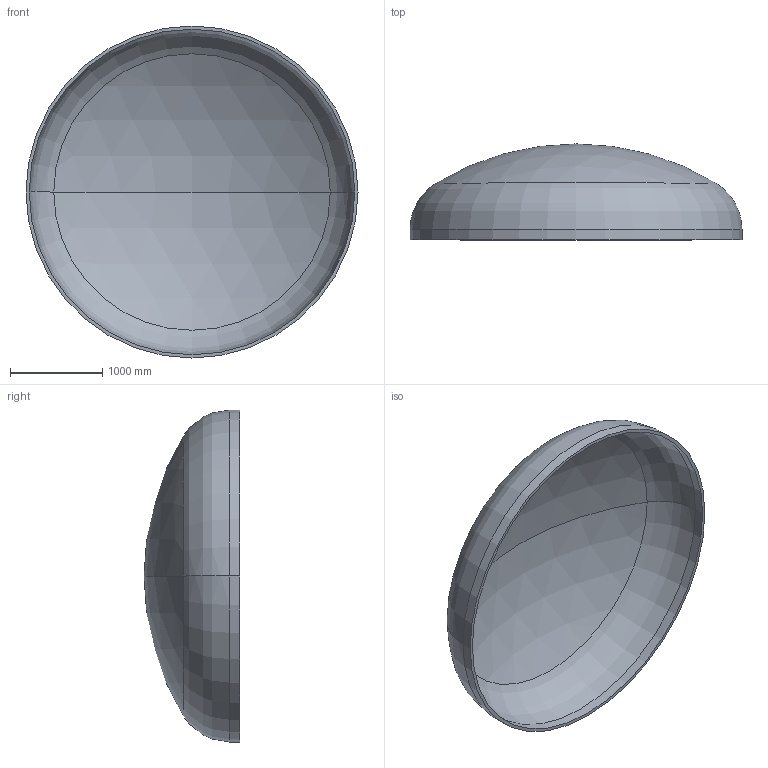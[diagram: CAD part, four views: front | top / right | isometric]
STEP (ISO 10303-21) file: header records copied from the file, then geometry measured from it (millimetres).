
FILE_DESCRIPTION (( 'STEP AP203' ), '1' );
FILE_NAME ('DIN 28013 Korbbogenform_-_Boden DIN 28013 - 3600 x 110 - I - s=35.step', '2016-07-01T20:21:16', ( '' ), ( '' ), 'SwSTEP 2.0', 'SolidWorks 2013', '' );
FILE_SCHEMA (( 'CONFIG_CONTROL_DESIGN' ));
Length unit declared in the file: millimetre
Products named in the file (1): DIN 28013 Korbbogenform_-_Boden DIN 28013 - 3600 x 110 - I - s=35
Bounding box: 3600 x 1039.67 x 3600 mm (x, y, z)
Volume: 530329672.7 mm3; surface area: 30699099.4 mm2
Topology: 1 solids, 1 shells, 13 faces, 24 edges, 14 vertices
Faces by surface type: torus 4, cylinder 4, sphere 4, plane 1
Entity records: 407 total; most frequent: DIRECTION 72, CARTESIAN_POINT 52, ORIENTED_EDGE 48, AXIS2_PLACEMENT_3D 34, EDGE_CURVE 24, CIRCLE 20, EDGE_LOOP 14, VERTEX_POINT 14
